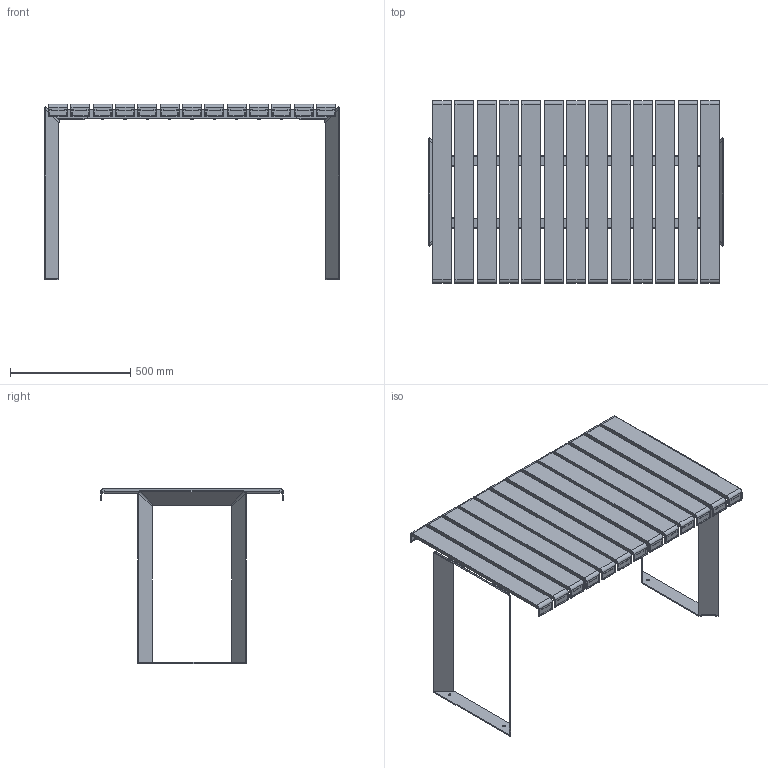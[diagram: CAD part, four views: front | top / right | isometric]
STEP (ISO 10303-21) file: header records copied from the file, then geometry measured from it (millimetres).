
FILE_DESCRIPTION(('STEP AP203'),'1');
FILE_NAME('UT80TV1300AXX.stp','2026-04-13T14:03:45',(' '),(' '),'Spatial InterOp 3D',' ',' ');
FILE_SCHEMA(('CONFIG_CONTROL_DESIGN'));
Length unit declared in the file: millimetre
Products named in the file (1): UT80TV1300AXX
Bounding box: 1229.19 x 760 x 730 mm (x, y, z)
Surface area: 3224043.1 mm2 (no closed solid volume)
Topology: 0 solids, 151 shells, 2614 faces, 6944 edges, 4331 vertices
Faces by surface type: cylinder 1015, plane 841, torus 632, bspline 126
Full cylindrical faces by diameter (mm): 3 x52, 6.8 x8, 8 x23, 10 x4, 13 x8, 13.5 x22, 17.8 x8
Entity records: 88496 total; most frequent: CARTESIAN_POINT 24699, DIRECTION 14648, ORIENTED_EDGE 11312, EDGE_CURVE 6621, AXIS2_PLACEMENT_3D 5860, VERTEX_POINT 4315, CIRCLE 3251, FACE_BOUND 3170
